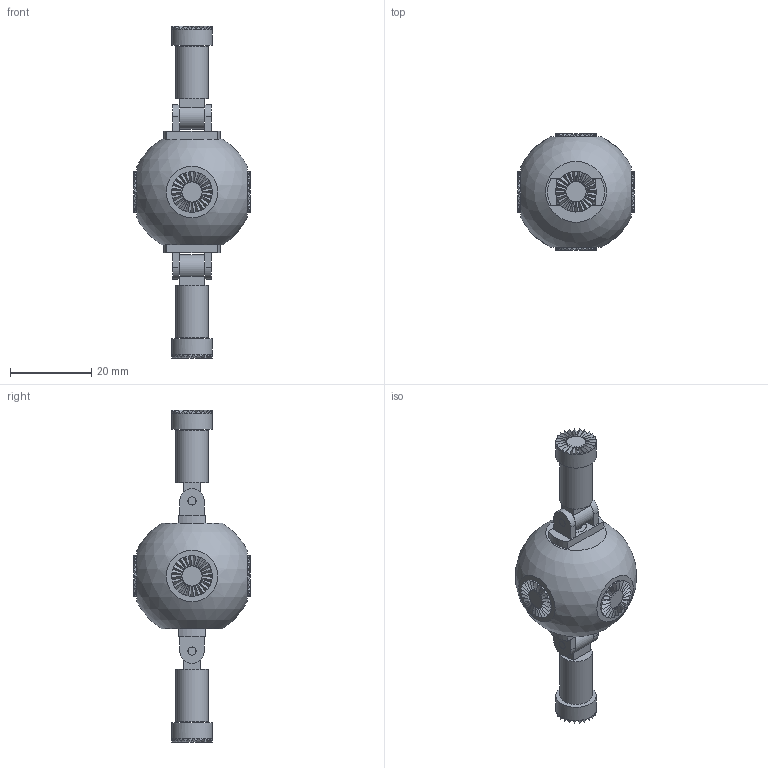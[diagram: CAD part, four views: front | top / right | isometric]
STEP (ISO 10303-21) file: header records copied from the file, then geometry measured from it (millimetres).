
FILE_DESCRIPTION(('Open CASCADE Model'),'2;1');
FILE_NAME('Open CASCADE Shape Model','2026-10-23T00:30:01',('Author'),( 'Open CASCADE'),'Open CASCADE STEP processor 7.9','Open CASCADE 7.9' ,'Unknown');
FILE_SCHEMA(('AUTOMOTIVE_DESIGN { 1 0 10303 214 1 1 1 1 }'));
Length unit declared in the file: millimetre
Products named in the file (10): bot_straight; bot0_body; bot0_turret_top; bot0_pin_top; bot0_arm_top; bot0_tip_top; bot0_turret_bottom; bot0_pin_bottom; bot0_arm_bottom; bot0_tip_bottom
Assembly tree (9 placements, depth 2):
  bot_straight
    bot0_body
    bot0_turret_top
    bot0_pin_top
    bot0_arm_top
    bot0_tip_top
    bot0_turret_bottom
    bot0_pin_bottom
    bot0_arm_bottom
    bot0_tip_bottom
Bounding box: 28.8 x 28.8 x 81.8 mm (x, y, z)
Volume: 6207.9 mm3; surface area: 9536 mm2
Topology: 9 solids, 9 shells, 880 faces, 2132 edges, 1298 vertices
Faces by surface type: cylinder 472, bspline 288, plane 118, sphere 2
Full cylindrical faces by diameter (mm): 2 x2, 2.04 x6, 2.6 x2, 3.8 x4, 5 x4, 5.2 x2, 6 x2, 8 x2, 10 x6, 14.967 x2
Entity records: 66767 total; most frequent: CARTESIAN_POINT 30769, DIRECTION 4307, ORIENTED_EDGE 4264, PCURVE 4264, DEFINITIONAL_REPRESENTATION 4264, B_SPLINE_CURVE_WITH_KNOTS 3834, EDGE_CURVE 2132, SURFACE_CURVE 2096
